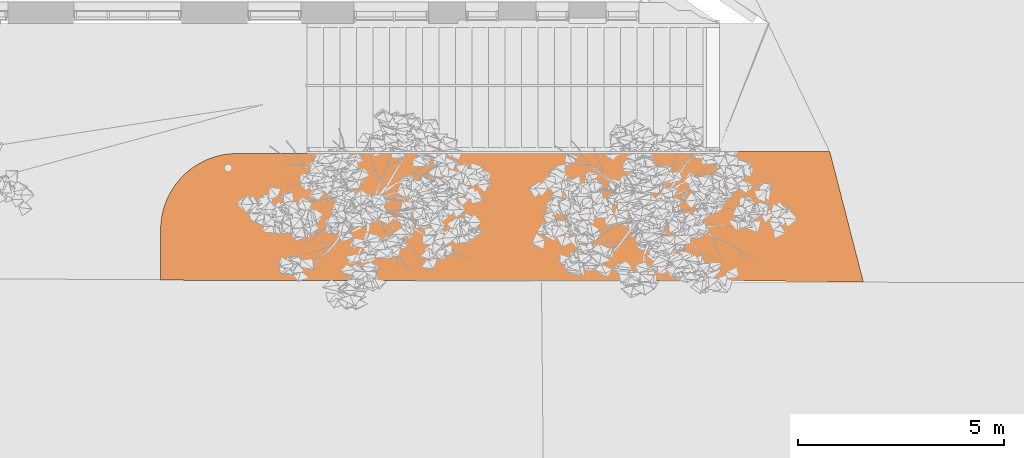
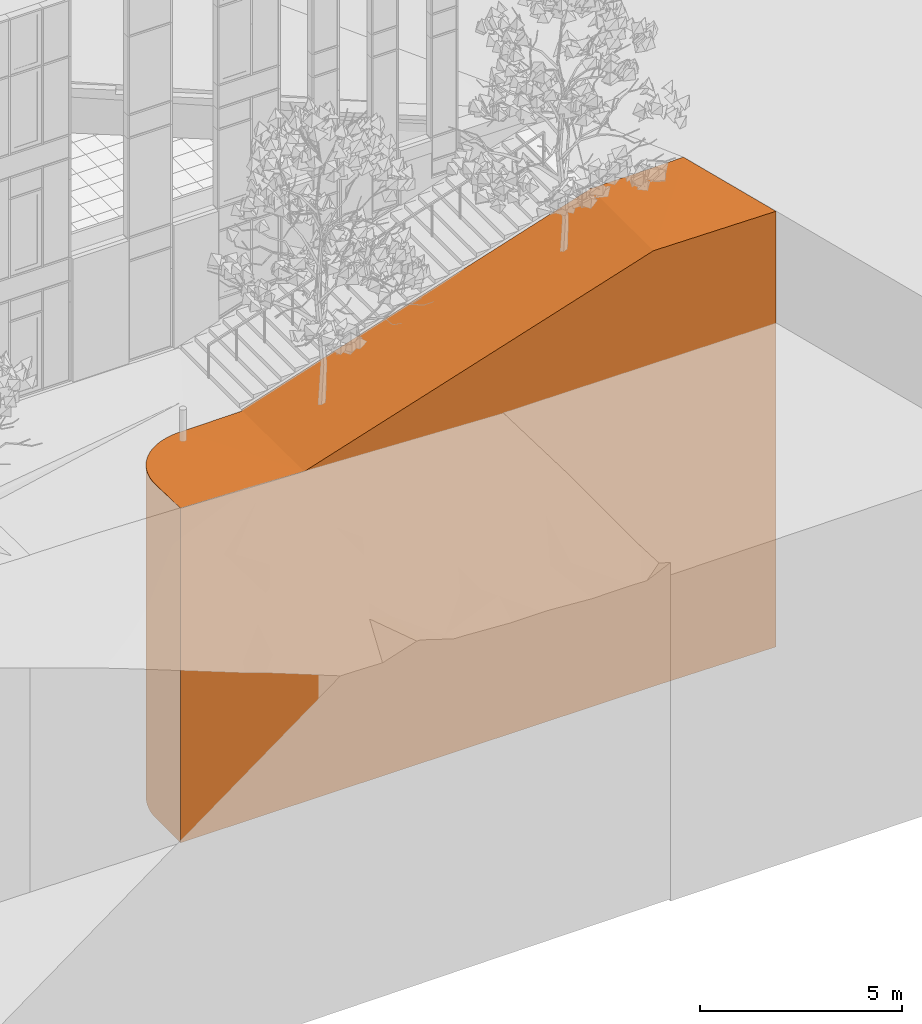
# One storey, part 237 of 246: 1 proxy.
"""IFC2X3 building model written with IfcOpenShell, lengths in millimetres."""

from ifc_helpers import new_model, entity, si_unit, converted_unit, derived_unit, money_unit, direction, frame, origin_with_axes, place, context, subcontext, project, spatial, faceted_brep, material, type_object, element, save


model = new_model("IFC2X3")

# Units and contexts
model_context = context("Model", 3, precision=0.01, world=origin_with_axes(), true_north=direction((0.0, 1.0)))
body_context = subcontext(model_context, "Body", "Model", "MODEL_VIEW")
ifc_project = project(units=[si_unit("LENGTHUNIT", "METRE", prefix="MILLI"), si_unit("AREAUNIT", "SQUARE_METRE"), si_unit("VOLUMEUNIT", "CUBIC_METRE"), converted_unit("PLANEANGLEUNIT", "DEGREE", entity("IfcPlaneAngleMeasure", 0.0174532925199), si_unit("PLANEANGLEUNIT", "RADIAN"), dimensions=[0, 0, 0, 0, 0, 0, 0]), si_unit("SOLIDANGLEUNIT", "STERADIAN"), money_unit("EUR"), converted_unit("TIMEUNIT", "Year", entity("IfcTimeMeasure", 31556926.0), si_unit("TIMEUNIT", "SECOND"), dimensions=[0, 0, 1, 0, 0, 0, 0]), si_unit("MASSUNIT", "GRAM", prefix="KILO"), si_unit("THERMODYNAMICTEMPERATUREUNIT", "DEGREE_CELSIUS"), si_unit("LUMINOUSINTENSITYUNIT", "LUMEN"), si_unit("ENERGYUNIT", "JOULE", prefix="MEGA"), derived_unit("THERMALCONDUCTANCEUNIT", [(si_unit("POWERUNIT", "WATT"), 1), (si_unit("LENGTHUNIT", "METRE"), -1), (si_unit("THERMODYNAMICTEMPERATUREUNIT", "KELVIN"), -1)]), derived_unit("SPECIFICHEATCAPACITYUNIT", [(si_unit("ENERGYUNIT", "JOULE"), 1), (si_unit("MASSUNIT", "GRAM", prefix="KILO"), -1), (si_unit("THERMODYNAMICTEMPERATUREUNIT", "KELVIN"), -1)]), derived_unit("MASSDENSITYUNIT", [(si_unit("MASSUNIT", "GRAM", prefix="KILO"), 1), (si_unit("VOLUMEUNIT", "CUBIC_METRE"), -1)])], contexts=[model_context])

# Site, building, storey
site_placement = place(None, origin_with_axes())
site = spatial("IfcSite", under=ifc_project, at=site_placement, Name="L.Koidula tn 11b", CompositionType="ELEMENT")
building_placement = place(site_placement, origin_with_axes())
building = spatial("IfcBuilding", under=site, at=building_placement, Name="Rakvere Riigigümnaasium", CompositionType="ELEMENT")
storey_placement = place(building_placement, origin_with_axes())
storey = spatial("IfcBuildingStorey", under=building, at=storey_placement, Name="1.korrus 0,00", CompositionType="ELEMENT", Elevation=0.0)

# Proxy
ifc_material = material(Name="Roheala")
building_element_proxy_type = type_object("IfcBuildingElementProxyType", Name="Roheala", PredefinedType="NOTDEFINED")
proxy_placement = place(storey_placement, frame((91010.2860631, -1280.7322247, -10000.0), z_axis=(0.0, 0.0, 1.0), x_axis=(1.0, 0.0, 0.0)))
element("IfcBuildingElementProxy", 1, at=proxy_placement, inside=storey, type_object=building_element_proxy_type, material=ifc_material, Name="Väljak", context=body_context, shape_type="Brep", body=[
    faceted_brep([(3543.64446284, 45.7262401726, 10006.8404726), (13543.6429703, 41.8517726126, 13193.7138992), (3542.11458668, 3117.18772389, 9980.0), (13543.6429703, 41.8517726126, 0.0), (0.0, 47.0992139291, 10128.1819091), (0.0, 47.0992139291, 0.0), (13543.370786, 3168.06861085, 13180.0), (1811.39996139, 3117.06360706, 9966.48578262), (17027.6757041, 0.0, 0.0), (17027.6757041, 0.0, 13193.7138992), (0.473875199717, 1270.1708274, 10101.5930966), (0.473875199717, 1270.1708274, 0.0), (0.271737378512, 1329.5754436, 0.0), (9.96594314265, 1466.10033888, 0.0), (29.716384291, 1601.53646674, 0.0), (59.4151907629, 1735.14412202, 0.0), (98.9001579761, 1866.19358603, 0.0), (147.955632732, 1993.96911206, 0.0), (206.313691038, 2117.77283449, 0.0), (273.655601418, 2236.92858031, 0.0), (349.613565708, 2350.78556216, 0.0), (433.772727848, 2458.72193269, 0.0), (525.673439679, 2560.14818087, 0.0), (624.81377138, 2654.51035171, 0.0), (730.652252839, 2741.29307175, 0.0), (842.610830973, 2820.02236387, 0.0), (960.078026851, 2890.26823597, 0.0), (1082.41227538, 2951.64702947, 0.0), (1208.94542933, 3003.82351467, 0.0), (1338.98640847, 3046.51272172, 0.0), (1471.82497409, 3079.48149695, 0.0), (1606.735608, 3102.54977636, 0.0), (1742.98147509, 3115.59156899, 0.0), (1811.39996139, 3117.06360706, 0.0), (3542.11458668, 3117.18772389, 0.0), (3542.11458668, 3168.06861085, 0.0), (13543.370786, 3168.06861085, 0.0), (16206.2001836, 3168.09149088, 0.0), (16225.1814652, 3117.18735565, 0.0), (3542.11458668, 3168.06861085, 9980.0), (16225.1814652, 3117.18735565, 13193.7138992), (0.271737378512, 1329.5754436, 10099.3849245), (9.96594314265, 1466.10033888, 10093.938554), (29.716384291, 1601.53646674, 10088.1650353), (59.4151907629, 1735.14412202, 10082.0959014), (98.9001579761, 1866.19358603, 10075.7642998), (147.955632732, 1993.96911206, 10069.2048114), (206.313691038, 2117.77283449, 10062.453262), (273.655601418, 2236.92858031, 10055.5465261), (349.613565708, 2350.78556216, 10048.522326), (433.772727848, 2458.72193269, 10041.4190253), (525.673439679, 2560.14818087, 10034.27542), (624.81377138, 2654.51035171, 10027.1305258), (730.652252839, 2741.29307175, 10020.0233656), (842.610830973, 2820.02236387, 10012.9927565), (960.078026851, 2890.26823597, 10006.077097), (1082.41227538, 2951.64702947, 9999.31415809), (1208.94542933, 3003.82351467, 9992.74087666), (1338.98640847, 3046.51272172, 9986.39315366), (1471.82497409, 3079.48149695, 9980.30565815), (1606.735608, 3102.54977636, 9974.51163792), (1742.98147509, 3115.59156899, 9969.0427379), (16206.2001836, 3168.09149088, 13199.3749726)], [[[0, 1, 2]], [[3, 1, 0, 4, 5]], [[6, 2, 1]], [[2, 7, 0]], [[8, 9, 1, 3]], [[0, 10, 4]], [[5, 4, 10, 11]], [[5, 11, 12, 13, 14, 15, 16, 17, 18, 19, 20, 21, 22, 23, 24, 25, 26, 27, 28, 29, 30, 31, 32, 33, 34, 35, 36, 37, 38, 8, 3]], [[39, 2, 6]], [[1, 40, 6]], [[33, 7, 2, 34]], [[0, 7, 10]], [[38, 40, 9, 8]], [[9, 40, 1]], [[11, 10, 41, 12]], [[12, 41, 42, 13]], [[13, 42, 43, 14]], [[14, 43, 44, 15]], [[15, 44, 45, 16]], [[16, 45, 46, 17]], [[17, 46, 47, 18]], [[18, 47, 48, 19]], [[19, 48, 49, 20]], [[20, 49, 50, 21]], [[21, 50, 51, 22]], [[22, 51, 52, 23]], [[23, 52, 53, 24]], [[24, 53, 54, 25]], [[25, 54, 55, 26]], [[26, 55, 56, 27]], [[27, 56, 57, 28]], [[28, 57, 58, 29]], [[29, 58, 59, 30]], [[30, 59, 60, 31]], [[31, 60, 61, 32]], [[32, 61, 7, 33]], [[34, 2, 39, 35]], [[35, 39, 6, 62, 37, 36]], [[37, 62, 40, 38]], [[62, 6, 40]], [[7, 61, 60, 59, 58, 57, 56, 55, 54, 53, 52, 51, 50, 49, 48, 47, 46, 45, 44, 43, 42, 41, 10]]]),
])

save(model, "model.ifc")
